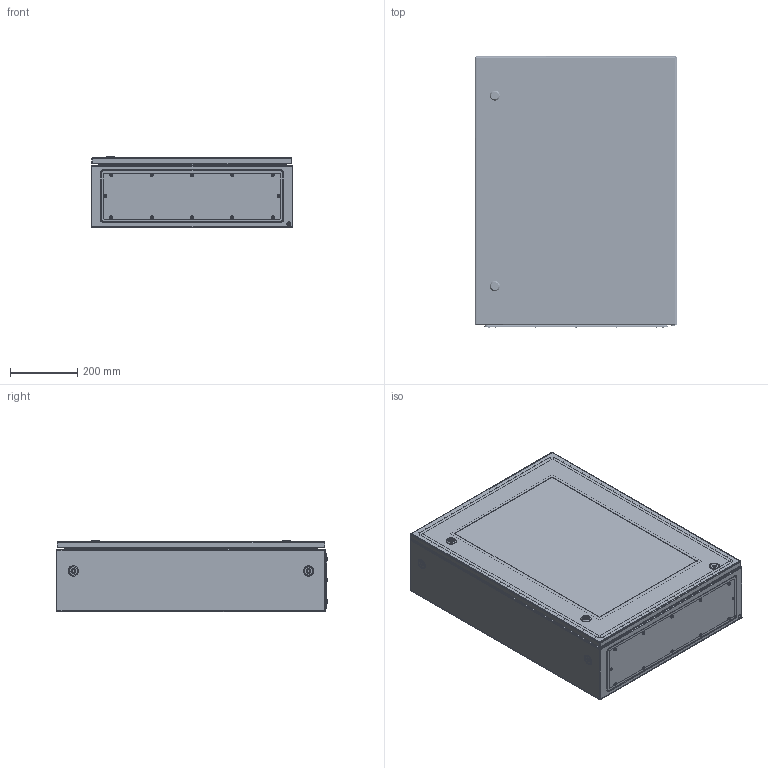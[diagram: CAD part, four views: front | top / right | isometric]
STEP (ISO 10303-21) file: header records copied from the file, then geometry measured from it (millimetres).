
FILE_DESCRIPTION (( 'STEP AP214' ), '1' );
FILE_NAME ('CCV 80.60.21.STEP', '2025-09-18T13:46:32', ( '' ), ( '' ), 'SwSTEP 2.0', 'SolidWorks 2019', '' );
FILE_SCHEMA (( 'AUTOMOTIVE_DESIGN' ));
Length unit declared in the file: millimetre
Products named in the file (28): Ïåòëÿ KIT_Ìîäóëü_êîðïóñíàÿ ÷àñòü â ñáîðå; Çàìîê LC 5DB.S_‡ ¬®ª LC 5DB.S_45mm; CCS X.Y.Z.01.000捘 扻豵鵨_CCS 80.60.21; ßçû÷îê çàìêà LC 5DB.S; CCS X.Y.Z.01.001 扻豵鵨_CCS 80.60.21; Ãàéêà Ì8 DIN 934; Øïèëüêà çàçåìëåíèÿ Ì6õ17,5_˜¯¨«ìª  § §¥¬«¥­¨ï Œ6å17,5 á ª®«¯ çª®¬; KIT_Øòèôò_ô5_Ìîäóëü; pan head cross recess screw_din_DIN EN ISO 7045 - M5 x 6 - Z - 6N; Ïåòëÿ KIT_Ìîäóëü_êîðïóñíàÿ ÷àñòü; CCV 80.60.21; ﾇ瑟鶴 LC 5DB.S; CCV X.Y.02.001 拟屦黖CCV 80.60; Âèíò ðåçüáîâûäàâëèâàþùèé ñ ïîëóïîòàéíîé ãîëîâêîé Ì5õ12; CCV X.Y.02.000蚜 拟屦黖CCV 80.60; KIT_Çàæèìíîå êîëüöî_ïîëèîêñèìåòèëåí_ô5_EMKA 1031-U16; Øïèëüêà Ì8õ25; Øïèëüêà çàçåìëåíèÿ Ì6õ17,5_˜¯¨«ìª  § §¥¬«¥­¨ï Œ6å17,5; PKV Y.15 相礤朦 赅徨朦眍泐 忖钿郷PKV 60(15); MPC X.Y Ïàíåëü ìîíòàæíàÿ_MPC 80.60; plain washer grade a_din_Washer DIN 125 - A 5.3; hex flange nut_din_Hexagon Flange Nut DIN 6923 - M8 - N; CCV X.Y.02.002 栺樏鋋_CCV 80.60; Ïåòëÿ ïðèâàðíàÿ ÷àñòü; Essentra_d6,3_1287228; Essentra_d9.3_055009300003
Assembly tree (67 placements, depth 3):
  CCV 80.60.21
    CCS X.Y.Z.01.000捘 扻豵鵨_CCS 80.60.21
      CCS X.Y.Z.01.001 扻豵鵨_CCS 80.60.21
      Øïèëüêà çàçåìëåíèÿ Ì6õ17,5_˜¯¨«ìª  § §¥¬«¥­¨ï Œ6å17,5  x4
      Øïèëüêà Ì8õ25  x6
    Ïåòëÿ KIT_Ìîäóëü_êîðïóñíàÿ ÷àñòü â ñáîðå
      Ïåòëÿ KIT_Ìîäóëü_êîðïóñíàÿ ÷àñòü
      KIT_Øòèôò_ô5_Ìîäóëü
      KIT_Çàæèìíîå êîëüöî_ïîëèîêñèìåòèëåí_ô5_EMKA 1031-U16
    Ïåòëÿ KIT_Ìîäóëü_êîðïóñíàÿ ÷àñòü â ñáîðå
      Ïåòëÿ KIT_Ìîäóëü_êîðïóñíàÿ ÷àñòü
      KIT_Øòèôò_ô5_Ìîäóëü
      KIT_Çàæèìíîå êîëüöî_ïîëèîêñèìåòèëåí_ô5_EMKA 1031-U16
    CCV X.Y.02.000蚜 拟屦黖CCV 80.60
      CCV X.Y.02.001 拟屦黖CCV 80.60
      Øïèëüêà çàçåìëåíèÿ Ì6õ17,5_˜¯¨«ìª  § §¥¬«¥­¨ï Œ6å17,5 á ª®«¯ çª®¬
      CCV X.Y.02.002 栺樏鋋_CCV 80.60
      Ïåòëÿ ïðèâàðíàÿ ÷àñòü  x2
    MPC X.Y Ïàíåëü ìîíòàæíàÿ_MPC 80.60
    PKV Y.15 相礤朦 赅徨朦眍泐 忖钿郷PKV 60(15)
    pan head cross recess screw_din_DIN EN ISO 7045 - M5 x 6 - Z - 6N  x2
    plain washer grade a_din_Washer DIN 125 - A 5.3  x2
    Ãàéêà Ì8 DIN 934  x6
    hex flange nut_din_Hexagon Flange Nut DIN 6923 - M8 - N  x6
    Âèíò ðåçüáîâûäàâëèâàþùèé ñ ïîëóïîòàéíîé ãîëîâêîé Ì5õ12  x14
    Essentra_d9.3_055009300003
    Essentra_d6,3_1287228  x2
    Çàìîê LC 5DB.S_‡ ¬®ª LC 5DB.S_45mm
      ﾇ瑟鶴 LC 5DB.S
      ßçû÷îê çàìêà LC 5DB.S
    Çàìîê LC 5DB.S_‡ ¬®ª LC 5DB.S_45mm
      ﾇ瑟鶴 LC 5DB.S
      ßçû÷îê çàìêà LC 5DB.S
Bounding box: 600 x 806.62 x 213.65 mm (x, y, z)
Volume: 4112138.9 mm3; surface area: 4409153.2 mm2
Topology: 65 solids, 65 shells, 2778 faces, 6886 edges, 4268 vertices
Faces by surface type: plane 1048, cylinder 1007, cone 370, bspline 164, torus 144, sphere 45
Entity records: 51549 total; most frequent: CARTESIAN_POINT 20476, ORIENTED_EDGE 6134, DIRECTION 6076, EDGE_CURVE 3067, AXIS2_PLACEMENT_3D 2276, VERTEX_POINT 1907, VECTOR 1524, LINE 1524
